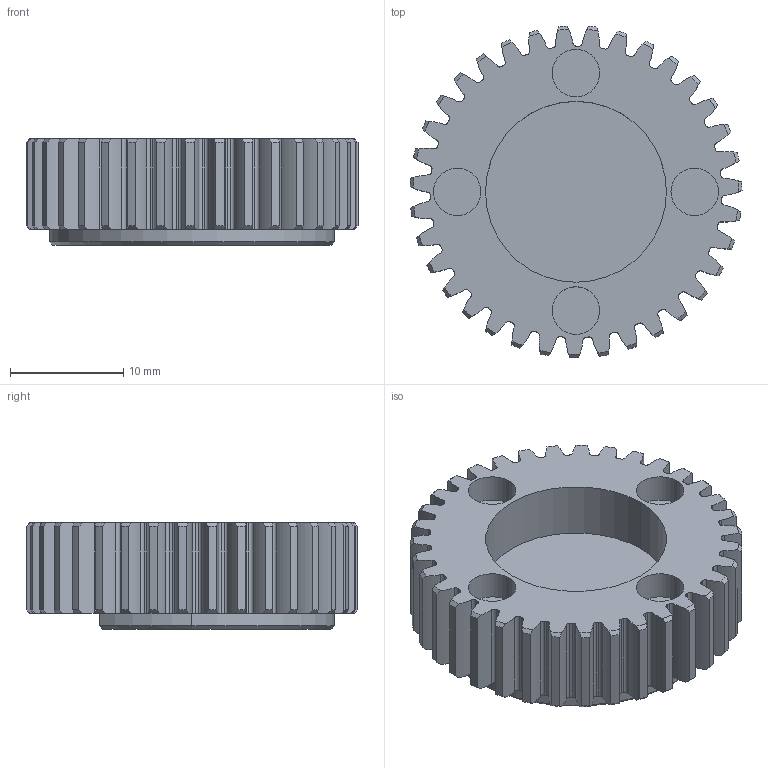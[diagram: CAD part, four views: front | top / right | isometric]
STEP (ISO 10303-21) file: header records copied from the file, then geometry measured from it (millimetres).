
FILE_DESCRIPTION (( 'STEP AP214' ), '1' );
FILE_NAME ('Gratting Gear_2.STEP', '2021-02-04T23:11:32', ( '' ), ( '' ), 'SwSTEP 2.0', 'SolidWorks 2020', '' );
FILE_SCHEMA (( 'AUTOMOTIVE_DESIGN' ));
Length unit declared in the file: millimetre
Products named in the file (1): Gratting Gear_2
Bounding box: 29.36 x 29.35 x 9.4 mm (x, y, z)
Volume: 4257.5 mm3; surface area: 3112.5 mm2
Topology: 1 solids, 1 shells, 329 faces, 956 edges, 636 vertices
Faces by surface type: cylinder 244, cone 74, plane 11
Entity records: 11357 total; most frequent: CARTESIAN_POINT 2357, DIRECTION 2031, ORIENTED_EDGE 1912, EDGE_CURVE 956, AXIS2_PLACEMENT_3D 890, VERTEX_POINT 636, CIRCLE 560, EDGE_LOOP 336
